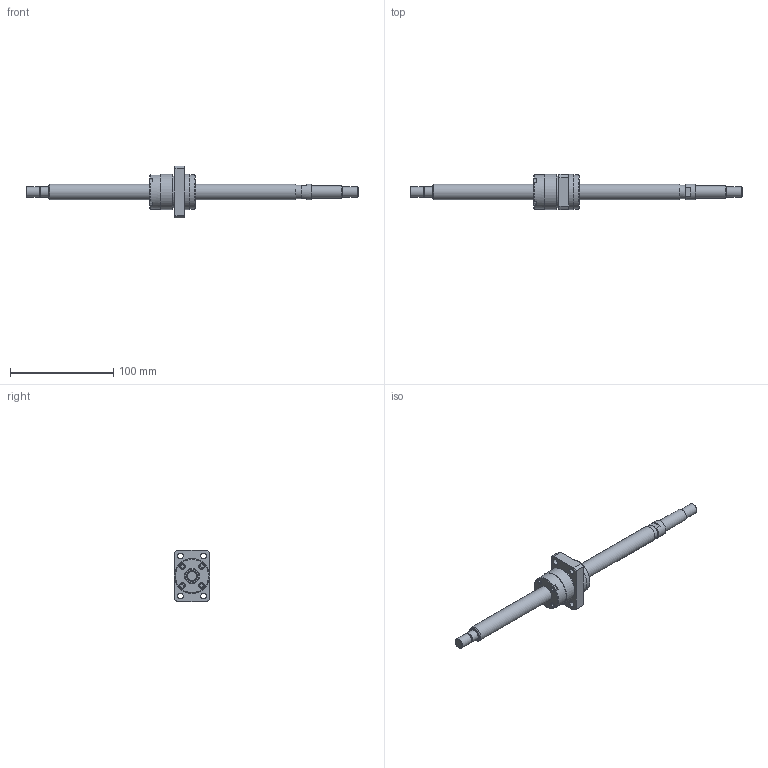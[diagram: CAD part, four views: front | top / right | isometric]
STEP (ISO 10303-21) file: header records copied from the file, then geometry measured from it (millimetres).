
FILE_DESCRIPTION(/* description */ ('STEP AP203'),/* implementation_level */ '2;1');
FILE_NAME(/* name */ 'BNK1510-5.6G0+321LC5Y(141.50)',/* time_stamp */ '2024-06-28T06:23:05+02:00',/* author */ ('License CC BY-ND 4.0'),/* organization */ ('CADENAS'),/* preprocessor_version */ 'ST-DEVELOPER v19.3',/* originating_system */ 'PARTsolutions',/* authorisation */ ' ');
FILE_SCHEMA (('CONFIG_CONTROL_DESIGN'));
Length unit declared in the file: millimetre
Products named in the file (3): BNK1510-5.6G0+321LC5Y(141.50); BNK 1510-5.6G0+321LC5Y Shaft; BNK 1510-5.6G0+321LC5Y0 Nut
Assembly tree (2 placements, depth 2):
  BNK1510-5.6G0+321LC5Y(141.50)
    BNK 1510-5.6G0+321LC5Y Shaft
    BNK 1510-5.6G0+321LC5Y0 Nut
Bounding box: 321 x 34 x 50 mm (x, y, z)
Volume: 87328.1 mm3; surface area: 26415.4 mm2
Topology: 2 solids, 2 shells, 137 faces, 313 edges, 202 vertices
Faces by surface type: plane 76, cylinder 35, cone 20, torus 6
Full cylindrical faces by diameter (mm): 5.188 x1, 5.5 x8, 9.5 x4, 9.6 x1, 10 x3, 12 x1, 13 x1, 15 x3, 30.6 x1, 33 x2, 34 x2
Entity records: 3729 total; most frequent: CARTESIAN_POINT 677, DIRECTION 632, ORIENTED_EDGE 534, EDGE_CURVE 267, AXIS2_PLACEMENT_3D 249, FACE_BOUND 211, EDGE_LOOP 210, VERTEX_POINT 198
